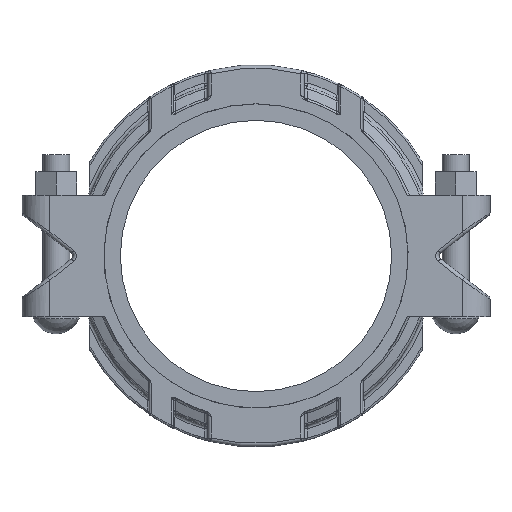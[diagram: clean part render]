
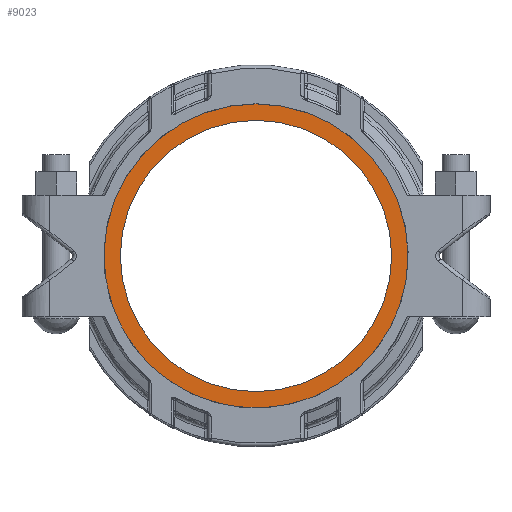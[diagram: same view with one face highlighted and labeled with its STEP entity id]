
A CAD part, top view. The second image highlights one B-rep face of the part: STEP entity #9023.
In plain terms, the highlighted planar face has unit normal (0, 0, 1).
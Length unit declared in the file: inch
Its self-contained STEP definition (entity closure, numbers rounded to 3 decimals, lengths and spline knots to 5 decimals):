
#1707=FACE_BOUND('',#2307,.T.);
#1726=FACE_OUTER_BOUND('',#2306,.T.);
#2306=EDGE_LOOP('',(#5646,#5647));
#2307=EDGE_LOOP('',(#5648));
#2902=CIRCLE('',#9624,5.01563);
#2903=CIRCLE('',#9626,5.625);
#2904=CIRCLE('',#9627,5.625);
#3491=VERTEX_POINT('',#13209);
#3492=VERTEX_POINT('',#13213);
#3493=VERTEX_POINT('',#13214);
#4285=EDGE_CURVE('',#3491,#3491,#2902,.T.);
#4286=EDGE_CURVE('',#3492,#3493,#2903,.T.);
#4287=EDGE_CURVE('',#3493,#3492,#2904,.T.);
#5646=ORIENTED_EDGE('',*,*,#4286,.F.);
#5647=ORIENTED_EDGE('',*,*,#4287,.F.);
#5648=ORIENTED_EDGE('',*,*,#4285,.T.);
#8357=PLANE('',#9625);
#9023=ADVANCED_FACE('',(#1726,#1707),#8357,.T.);
#9624=AXIS2_PLACEMENT_3D('',#13211,#10692,#10693);
#9625=AXIS2_PLACEMENT_3D('',#13212,#10694,#10695);
#9626=AXIS2_PLACEMENT_3D('',#13215,#10696,#10697);
#9627=AXIS2_PLACEMENT_3D('',#13216,#10698,#10699);
#10692=DIRECTION('center_axis',(0.,0.,-1.));
#10693=DIRECTION('ref_axis',(1.,0.,0.));
#10694=DIRECTION('center_axis',(0.,0.,1.));
#10695=DIRECTION('ref_axis',(-1.,0.,0.));
#10696=DIRECTION('center_axis',(0.,0.,-1.));
#10697=DIRECTION('ref_axis',(0.,-1.,0.));
#10698=DIRECTION('center_axis',(0.,0.,-1.));
#10699=DIRECTION('ref_axis',(0.,-1.,0.));
#13209=CARTESIAN_POINT('',(-5.01563,0.,0.0325));
#13211=CARTESIAN_POINT('Origin',(0.,0.,
0.0325));
#13212=CARTESIAN_POINT('Origin',(0.,0.,
0.0325));
#13213=CARTESIAN_POINT('',(-5.625,0.,0.0325));
#13214=CARTESIAN_POINT('',(0.,5.625,0.0325));
#13215=CARTESIAN_POINT('Origin',(0.,0.,
0.0325));
#13216=CARTESIAN_POINT('Origin',(0.,0.,
0.0325));
